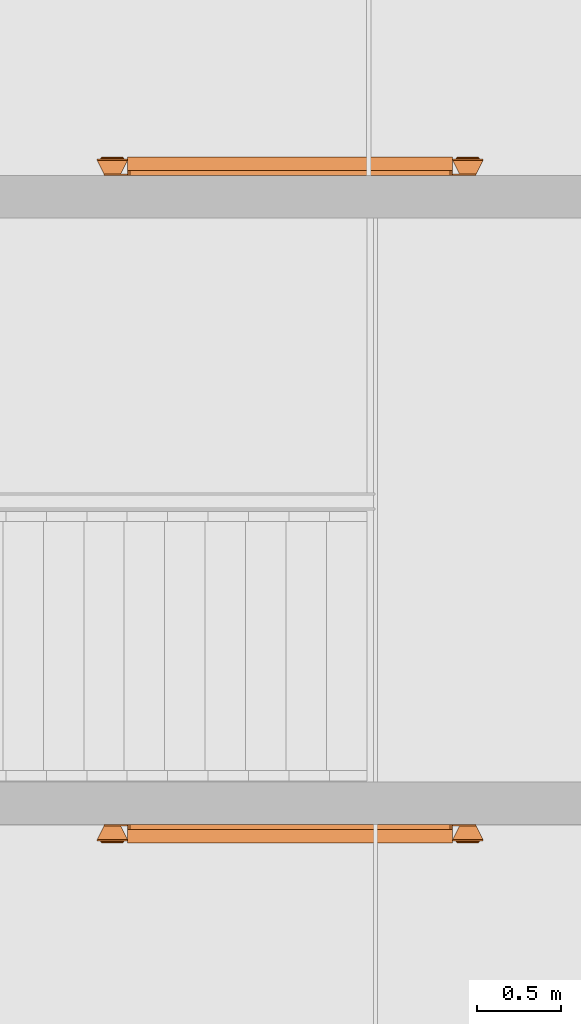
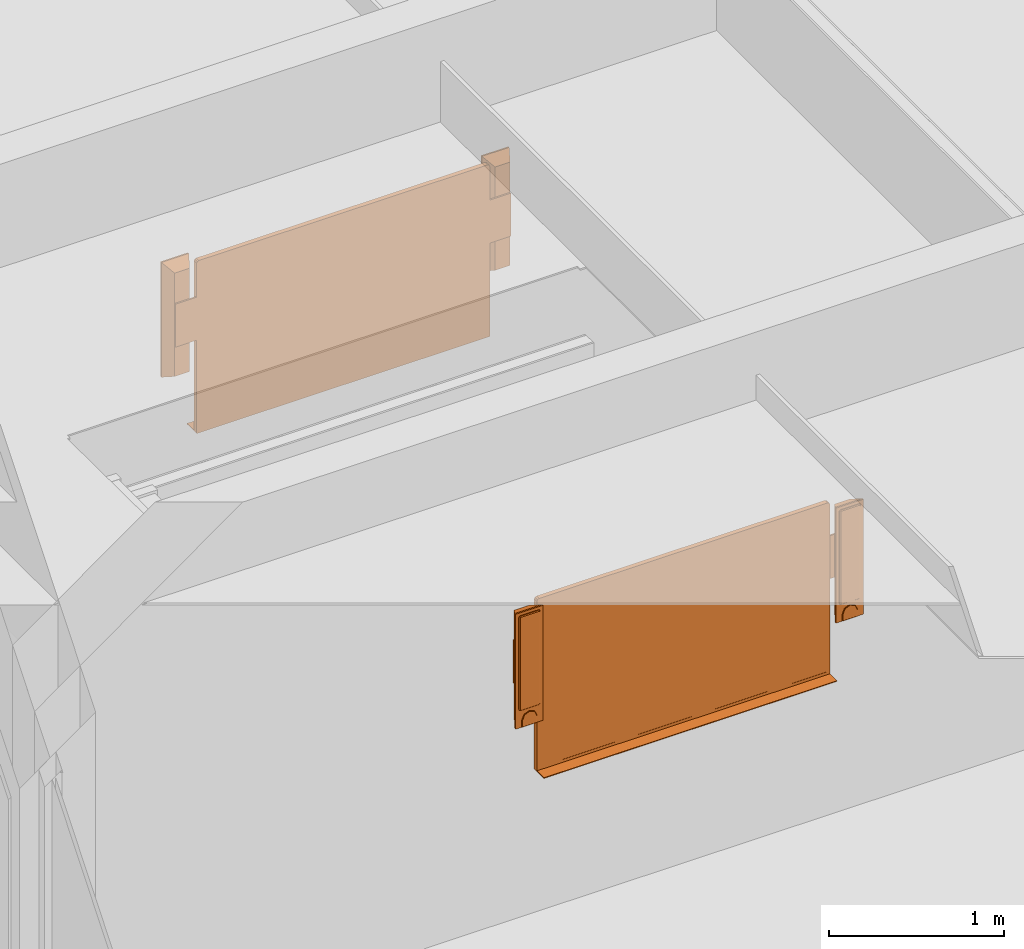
# One storey, part 79 of 167: 2 proxies.
"""IFC2X3 building model written with IfcOpenShell, lengths in millimetres."""

from ifc_helpers import new_model, entity, si_unit, converted_unit, derived_unit, money_unit, direction, frame, origin_with_axes, place, context, subcontext, project, spatial, faceted_brep, source, transform, mapped, type_object, type_shapes, element, save


model = new_model("IFC2X3")

# Units and contexts
model_context = context("Model", 3, precision=0.01, world=origin_with_axes(), true_north=direction((0.0, 1.0)))
plan_context = context("Plan", 3, precision=0.01, world=origin_with_axes(), true_north=direction((0.0, 1.0)))
body_context = subcontext(model_context, "Body", "Model", "MODEL_VIEW")
ifc_project = project(units=[si_unit("LENGTHUNIT", "METRE", prefix="MILLI"), si_unit("AREAUNIT", "SQUARE_METRE"), si_unit("VOLUMEUNIT", "CUBIC_METRE"), converted_unit("PLANEANGLEUNIT", "DEGREE", entity("IfcPlaneAngleMeasure", 0.0174532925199), si_unit("PLANEANGLEUNIT", "RADIAN"), dimensions=[0, 0, 0, 0, 0, 0, 0]), si_unit("SOLIDANGLEUNIT", "STERADIAN"), money_unit("EUR"), converted_unit("TIMEUNIT", "Year", entity("IfcTimeMeasure", 31556926.0), si_unit("TIMEUNIT", "SECOND"), dimensions=[0, 0, 1, 0, 0, 0, 0]), si_unit("MASSUNIT", "GRAM", prefix="KILO"), si_unit("THERMODYNAMICTEMPERATUREUNIT", "DEGREE_CELSIUS"), si_unit("LUMINOUSINTENSITYUNIT", "LUMEN"), si_unit("ENERGYUNIT", "JOULE", prefix="MEGA"), derived_unit("THERMALCONDUCTANCEUNIT", [(si_unit("POWERUNIT", "WATT"), 1), (si_unit("LENGTHUNIT", "METRE"), -1), (si_unit("THERMODYNAMICTEMPERATUREUNIT", "KELVIN"), -1)]), derived_unit("SPECIFICHEATCAPACITYUNIT", [(si_unit("ENERGYUNIT", "JOULE"), 1), (si_unit("MASSUNIT", "GRAM", prefix="KILO"), -1), (si_unit("THERMODYNAMICTEMPERATUREUNIT", "KELVIN"), -1)]), derived_unit("MASSDENSITYUNIT", [(si_unit("MASSUNIT", "GRAM", prefix="KILO"), 1), (si_unit("VOLUMEUNIT", "CUBIC_METRE"), -1)])], contexts=[model_context, plan_context])

# Site, building, storey
site_placement = place(None, origin_with_axes())
site = spatial("IfcSite", under=ifc_project, at=site_placement, Name="Site", CompositionType="ELEMENT")
building_placement = place(site_placement, origin_with_axes())
building = spatial("IfcBuilding", under=site, at=building_placement, Name="Naam gebouw", CompositionType="ELEMENT")
storey_placement = place(building_placement, origin_with_axes())
storey = spatial("IfcBuildingStorey", under=building, at=storey_placement, Name="Begane grond", CompositionType="ELEMENT", Elevation=0.0)

# Proxies
building_element_proxy_type = type_object("IfcBuildingElementProxyType", Name="Digitaal bord 24", PredefinedType="NOTDEFINED")
shared_shape_1 = source(origin_with_axes(), body_context, "Body", "Brep", [
    faceted_brep([(0.0, 0.0, 1000.0), (1930.0, 0.0, 1000.0), (1930.0, -30.0, 1000.0), (0.0, -30.0, 1000.0), (0.0, 0.0, 2185.0), (4.3933982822, 0.0, 2195.60660172), (15.0, 0.0, 2200.0), (1915.0, 0.0, 2200.0), (1925.60660172, 0.0, 2195.60660172), (1930.0, 0.0, 2185.0), (20.0, 0.0, 1025.0), (1910.0, 0.0, 1025.0), (1910.0, 0.0, 2180.0), (20.0, 0.0, 2180.0), (1930.0, -30.0, 2185.0), (1925.60660172, -30.0, 2195.60660172), (1915.0, -30.0, 2200.0), (15.0, -30.0, 2200.0), (4.3933982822, -30.0, 2195.60660172), (0.0, -30.0, 2185.0), (20.0, -30.0, 1025.0), (20.0, -30.0, 2180.0), (1910.0, -30.0, 2180.0), (1910.0, -30.0, 1025.0)], [[[0, 1, 2, 3]], [[0, 4, 5, 6, 7, 8, 9, 1], [10, 11, 12, 13]], [[1, 9, 14, 2]], [[3, 2, 14, 15, 16, 17, 18, 19], [20, 21, 22, 23]], [[4, 0, 3, 19]], [[5, 4, 19, 18]], [[6, 5, 18, 17]], [[7, 6, 17, 16]], [[8, 7, 16, 15]], [[9, 8, 15, 14]], [[11, 10, 20, 23]], [[12, 11, 23, 22]], [[13, 12, 22, 21]], [[10, 13, 21, 20]]]),
    faceted_brep([(20.0, 0.0, 1025.0), (1910.0, 0.0, 1025.0), (1910.0, -29.0, 1025.0), (20.0, -29.0, 1025.0), (20.0, 0.0, 2180.0), (1910.0, 0.0, 2180.0), (1910.0, -29.0, 2180.0), (20.0, -29.0, 2180.0)], [[[0, 1, 2, 3]], [[0, 4, 5, 1]], [[1, 5, 6, 2]], [[3, 2, 6, 7]], [[4, 0, 3, 7]], [[5, 4, 7, 6]]]),
    faceted_brep([(1930.0, -110.0, 1000.0), (0.0, -110.0, 1000.0), (0.0, -30.0, 1000.0), (1930.0, -30.0, 1000.0), (1930.0, -110.0, 1005.0), (0.0, -110.0, 1005.0), (0.0, -30.0, 1005.0), (1930.0, -30.0, 1005.0)], [[[0, 1, 2, 3]], [[1, 0, 4, 5]], [[2, 1, 5, 6]], [[3, 2, 6, 7]], [[0, 3, 7, 4]], [[5, 4, 7, 6]]]),
    faceted_brep([(0.0, -10.0, 1650.0), (-140.0, -10.0, 1650.0), (-140.0, 0.0, 1650.0), (0.0, 0.0, 1650.0), (0.0, -10.0, 1950.0), (-140.0, -10.0, 1950.0), (-140.0, 0.0, 1950.0), (0.0, 0.0, 1950.0)], [[[0, 1, 2, 3]], [[1, 0, 4, 5]], [[2, 1, 5, 6]], [[3, 2, 6, 7]], [[0, 3, 7, 4]], [[5, 4, 7, 6]]]),
    faceted_brep([(0.0, -100.0, 2200.0), (-180.0, -100.0, 2200.0), (-180.0, -100.0, 1400.0), (0.0, -100.0, 1400.0), (2.43782993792e-07, -90.0, 2200.00000039), (-180.00000039, -90.0, 2200.00000039), (-180.00000039, -90.0, 1399.99999964), (2.43782993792e-07, -90.0, 1399.99999964), (-39.9999997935, -9.99999992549, 2160.00000035), (-140.000000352, -9.99999992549, 2160.00000035), (-140.000000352, -9.99999992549, 1439.99999968), (-39.9999997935, -9.99999992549, 1439.99999968)], [[[0, 1, 2, 3]], [[1, 0, 4, 5]], [[2, 1, 5, 6]], [[3, 2, 6, 7]], [[0, 3, 7, 4]], [[5, 4, 8, 9]], [[6, 5, 9, 10]], [[7, 6, 10, 11]], [[4, 7, 11, 8]], [[10, 9, 8, 11]]]),
    faceted_brep([(-157.071067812, -100.0, 1522.92893219), (-160.0, -100.0, 1530.0), (-160.0, -100.0, 2170.0), (-157.071067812, -100.0, 2177.07106781), (-150.0, -100.0, 2180.0), (-30.0, -100.0, 2180.0), (-22.9289321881, -100.0, 2177.07106781), (-20.0, -100.0, 2170.0), (-20.0, -100.0, 1530.0), (-22.9289321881, -100.0, 1522.92893219), (-30.0, -100.0, 1520.0), (-150.0, -100.0, 1520.0), (-156.488467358, -103.826834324, 1523.51153264), (-159.238795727, -103.826834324, 1530.15141333), (-159.238795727, -103.826834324, 2169.84858696), (-156.488467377, -103.826834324, 2176.48846672), (-149.848586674, -103.826834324, 2179.2387951), (-30.1514125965, -103.826834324, 2179.2387951), (-23.5115328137, -103.826834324, 2176.48846674), (-20.761204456, -103.826834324, 2169.84858696), (-20.761204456, -103.826834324, 1530.15141333), (-23.5115328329, -103.826834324, 1523.51153262), (-30.1514125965, -103.826834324, 1520.76120427), (-149.848586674, -103.826834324, 1520.76120427), (-152.346331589, -109.238795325, 1527.65366841), (-153.826834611, -109.238795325, 1531.22791923), (-153.826834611, -109.238795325, 2168.77208092), (-152.346331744, -109.238795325, 2172.34633089), (-148.772080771, -109.238795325, 2173.82683398), (-31.2279186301, -109.238795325, 2173.82683398), (-27.6536685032, -109.238795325, 2172.34633105), (-26.1731655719, -109.238795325, 2168.77208092), (-26.1731655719, -109.238795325, 1531.22791923), (-27.6536686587, -109.238795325, 1527.65366826), (-31.2279186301, -109.238795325, 1526.17316539), (-148.772080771, -109.238795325, 1526.17316539), (-149.41740042, -109.999999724, 1530.58259958), (-150.000001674, -109.999999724, 1531.98912356), (-150.000001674, -109.999999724, 2168.0108765), (-149.417400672, -109.999999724, 2169.41739969), (-148.010876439, -109.999999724, 2170.00000104), (-31.9891230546, -109.999999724, 2170.00000104), (-30.5825996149, -109.999999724, 2169.41739994), (-29.9999985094, -109.999999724, 2168.0108765), (-29.9999985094, -109.999999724, 1531.98912356), (-30.5825998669, -109.999999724, 1530.58259933), (-31.9891230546, -109.999999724, 1529.99999833), (-148.010876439, -109.999999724, 1529.99999833)], [[[0, 1, 2, 3, 4, 5, 6, 7, 8, 9, 10, 11]], [[1, 0, 12, 13]], [[2, 1, 13, 14]], [[3, 2, 14, 15]], [[4, 3, 15, 16]], [[5, 4, 16, 17]], [[6, 5, 17, 18]], [[7, 6, 18, 19]], [[8, 7, 19, 20]], [[9, 8, 20, 21]], [[10, 9, 21, 22]], [[11, 10, 22, 23]], [[0, 11, 23, 12]], [[13, 12, 24, 25]], [[14, 13, 25, 26]], [[15, 14, 26, 27]], [[16, 15, 27, 28]], [[17, 16, 28, 29]], [[18, 17, 29, 30]], [[19, 18, 30, 31]], [[20, 19, 31, 32]], [[21, 20, 32, 33]], [[22, 21, 33, 34]], [[23, 22, 34, 35]], [[12, 23, 35, 24]], [[25, 24, 36, 37]], [[26, 25, 37, 38]], [[27, 26, 38, 39]], [[28, 27, 39, 40]], [[29, 28, 40, 41]], [[30, 29, 41, 42]], [[31, 30, 42, 43]], [[32, 31, 43, 44]], [[33, 32, 44, 45]], [[34, 33, 45, 46]], [[35, 34, 46, 47]], [[24, 35, 47, 36]], [[39, 38, 37, 36, 47, 46, 45, 44, 43, 42, 41, 40]]]),
    faceted_brep([(-40.0, -100.0, 1400.0), (-140.0, -100.0, 1400.0), (-140.0, -100.0, 1450.0), (-125.355339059, -100.0, 1485.35533906), (-90.0, -100.0, 1500.0), (-54.6446609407, -100.0, 1485.35533906), (-40.0, -100.0, 1450.0), (-40.380602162, -101.913417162, 1400.38060194), (-139.619398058, -101.913417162, 1400.38060194), (-139.619398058, -101.913417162, 1449.92429384), (-125.064038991, -101.913417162, 1485.06403877), (-89.9999996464, -101.913417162, 1499.58803917), (-54.9359612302, -101.913417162, 1485.06403877), (-40.380602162, -101.913417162, 1449.92429384), (-43.0865822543, -104.619397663, 1403.08658203), (-136.913417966, -104.619397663, 1403.08658203), (-136.913417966, -104.619397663, 1449.38604093), (-122.9929715, -104.619397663, 1482.99297126), (-89.99999966, -104.619397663, 1496.65910743), (-57.0070287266, -104.619397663, 1482.99297127), (-43.0865822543, -104.619397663, 1449.38604093), (-45.0000010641, -105.000000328, 1405.00000084), (-134.999999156, -105.000000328, 1405.00000084), (-134.999999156, -105.000000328, 1449.00543826), (-121.528504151, -105.000000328, 1481.52850389), (-89.9999996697, -105.000000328, 1494.58803784), (-58.4714960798, -105.000000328, 1481.52850392), (-45.0000010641, -105.000000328, 1449.00543826)], [[[0, 1, 2, 3, 4, 5, 6]], [[1, 0, 7, 8]], [[2, 1, 8, 9]], [[3, 2, 9, 10]], [[4, 3, 10, 11]], [[5, 4, 11, 12]], [[6, 5, 12, 13]], [[0, 6, 13, 7]], [[8, 7, 14, 15]], [[9, 8, 15, 16]], [[10, 9, 16, 17]], [[11, 10, 17, 18]], [[12, 11, 18, 19]], [[13, 12, 19, 20]], [[7, 13, 20, 14]], [[15, 14, 21, 22]], [[16, 15, 22, 23]], [[17, 16, 23, 24]], [[18, 17, 24, 25]], [[19, 18, 25, 26]], [[20, 19, 26, 27]], [[14, 20, 27, 21]], [[24, 23, 22, 21, 27, 26, 25]]]),
    faceted_brep([(1930.0, -10.0, 1650.0), (1930.0, 0.0, 1650.0), (2070.0, 0.0, 1650.0), (2070.0, -10.0, 1650.0), (1930.0, -10.0, 1950.0), (1930.0, 0.0, 1950.0), (2070.0, 0.0, 1950.0), (2070.0, -10.0, 1950.0)], [[[0, 1, 2, 3]], [[0, 4, 5, 1]], [[1, 5, 6, 2]], [[2, 6, 7, 3]], [[3, 7, 4, 0]], [[7, 6, 5, 4]]]),
    faceted_brep([(1930.0, -100.0, 2200.0), (1930.0, -100.0, 1400.0), (2110.0, -100.0, 1400.0), (2110.0, -100.0, 2200.0), (1929.99999976, -90.0, 2200.00000039), (1929.99999976, -90.0, 1399.99999964), (2110.00000039, -90.0, 1399.99999964), (2110.00000039, -90.0, 2200.00000039), (1969.99999979, -9.99999992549, 2160.00000035), (1969.99999979, -9.99999992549, 1439.99999968), (2070.00000035, -9.99999992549, 1439.99999968), (2070.00000035, -9.99999992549, 2160.00000035)], [[[0, 1, 2, 3]], [[0, 4, 5, 1]], [[1, 5, 6, 2]], [[2, 6, 7, 3]], [[3, 7, 4, 0]], [[4, 8, 9, 5]], [[5, 9, 10, 6]], [[6, 10, 11, 7]], [[7, 11, 8, 4]], [[10, 9, 8, 11]]]),
    faceted_brep([(2087.07106781, -100.0, 1522.92893219), (2080.0, -100.0, 1520.0), (1960.0, -100.0, 1520.0), (1952.92893219, -100.0, 1522.92893219), (1950.0, -100.0, 1530.0), (1950.0, -100.0, 2170.0), (1952.92893219, -100.0, 2177.07106781), (1960.0, -100.0, 2180.0), (2080.0, -100.0, 2180.0), (2087.07106781, -100.0, 2177.07106781), (2090.0, -100.0, 2170.0), (2090.0, -100.0, 1530.0), (2086.48846736, -103.826834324, 1523.51153264), (2079.84858667, -103.826834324, 1520.76120427), (1960.1514126, -103.826834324, 1520.76120427), (1953.51153283, -103.826834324, 1523.51153262), (1950.76120446, -103.826834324, 1530.15141333), (1950.76120446, -103.826834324, 2169.84858696), (1953.51153281, -103.826834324, 2176.48846674), (1960.1514126, -103.826834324, 2179.2387951), (2079.84858667, -103.826834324, 2179.2387951), (2086.48846738, -103.826834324, 2176.48846672), (2089.23879573, -103.826834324, 2169.84858696), (2089.23879573, -103.826834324, 1530.15141333), (2082.34633159, -109.238795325, 1527.65366841), (2078.77208077, -109.238795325, 1526.17316539), (1961.22791863, -109.238795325, 1526.17316539), (1957.65366866, -109.238795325, 1527.65366826), (1956.17316557, -109.238795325, 1531.22791923), (1956.17316557, -109.238795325, 2168.77208092), (1957.6536685, -109.238795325, 2172.34633105), (1961.22791863, -109.238795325, 2173.82683398), (2078.77208077, -109.238795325, 2173.82683398), (2082.34633174, -109.238795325, 2172.34633089), (2083.82683461, -109.238795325, 2168.77208092), (2083.82683461, -109.238795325, 1531.22791923), (2079.41740042, -109.999999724, 1530.58259958), (2078.01087644, -109.999999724, 1529.99999833), (1961.98912305, -109.999999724, 1529.99999833), (1960.58259987, -109.999999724, 1530.58259933), (1959.99999851, -109.999999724, 1531.98912356), (1959.99999851, -109.999999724, 2168.0108765), (1960.58259961, -109.999999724, 2169.41739994), (1961.98912305, -109.999999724, 2170.00000104), (2078.01087644, -109.999999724, 2170.00000104), (2079.41740067, -109.999999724, 2169.41739969), (2080.00000167, -109.999999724, 2168.0108765), (2080.00000167, -109.999999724, 1531.98912356)], [[[0, 1, 2, 3, 4, 5, 6, 7, 8, 9, 10, 11]], [[0, 12, 13, 1]], [[1, 13, 14, 2]], [[2, 14, 15, 3]], [[3, 15, 16, 4]], [[4, 16, 17, 5]], [[5, 17, 18, 6]], [[6, 18, 19, 7]], [[7, 19, 20, 8]], [[8, 20, 21, 9]], [[9, 21, 22, 10]], [[10, 22, 23, 11]], [[11, 23, 12, 0]], [[12, 24, 25, 13]], [[13, 25, 26, 14]], [[14, 26, 27, 15]], [[15, 27, 28, 16]], [[16, 28, 29, 17]], [[17, 29, 30, 18]], [[18, 30, 31, 19]], [[19, 31, 32, 20]], [[20, 32, 33, 21]], [[21, 33, 34, 22]], [[22, 34, 35, 23]], [[23, 35, 24, 12]], [[24, 36, 37, 25]], [[25, 37, 38, 26]], [[26, 38, 39, 27]], [[27, 39, 40, 28]], [[28, 40, 41, 29]], [[29, 41, 42, 30]], [[30, 42, 43, 31]], [[31, 43, 44, 32]], [[32, 44, 45, 33]], [[33, 45, 46, 34]], [[34, 46, 47, 35]], [[35, 47, 36, 24]], [[45, 44, 43, 42, 41, 40, 39, 38, 37, 36, 47, 46]]]),
    faceted_brep([(1970.0, -100.0, 1400.0), (1970.0, -100.0, 1450.0), (1984.64466094, -100.0, 1485.35533906), (2020.0, -100.0, 1500.0), (2055.35533906, -100.0, 1485.35533906), (2070.0, -100.0, 1450.0), (2070.0, -100.0, 1400.0), (1970.38060216, -101.913417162, 1400.38060194), (1970.38060216, -101.913417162, 1449.92429384), (1984.93596123, -101.913417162, 1485.06403877), (2019.99999965, -101.913417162, 1499.58803917), (2055.06403899, -101.913417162, 1485.06403877), (2069.61939806, -101.913417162, 1449.92429384), (2069.61939806, -101.913417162, 1400.38060194), (1973.08658225, -104.619397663, 1403.08658203), (1973.08658225, -104.619397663, 1449.38604093), (1987.00702873, -104.619397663, 1482.99297127), (2019.99999966, -104.619397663, 1496.65910743), (2052.9929715, -104.619397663, 1482.99297126), (2066.91341797, -104.619397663, 1449.38604093), (2066.91341797, -104.619397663, 1403.08658203), (1975.00000106, -105.000000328, 1405.00000084), (1975.00000106, -105.000000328, 1449.00543826), (1988.47149608, -105.000000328, 1481.52850392), (2019.99999967, -105.000000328, 1494.58803784), (2051.52850415, -105.000000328, 1481.52850389), (2064.99999916, -105.000000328, 1449.00543826), (2064.99999916, -105.000000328, 1405.00000084)], [[[0, 1, 2, 3, 4, 5, 6]], [[0, 7, 8, 1]], [[1, 8, 9, 2]], [[2, 9, 10, 3]], [[3, 10, 11, 4]], [[4, 11, 12, 5]], [[5, 12, 13, 6]], [[6, 13, 7, 0]], [[7, 14, 15, 8]], [[8, 15, 16, 9]], [[9, 16, 17, 10]], [[10, 17, 18, 11]], [[11, 18, 19, 12]], [[12, 19, 20, 13]], [[13, 20, 14, 7]], [[14, 21, 22, 15]], [[15, 22, 23, 16]], [[16, 23, 24, 17]], [[17, 24, 25, 18]], [[18, 25, 26, 19]], [[19, 26, 27, 20]], [[20, 27, 21, 14]], [[25, 24, 23, 22, 21, 27, 26]]]),
])
proxy_1_placement = place(storey_placement, frame((5090.01405593, 7075.0, 0.0), z_axis=(0.0, 0.0, 1.0), x_axis=(1.0, 0.0, 0.0)))
element("IfcBuildingElementProxy", 1, at=proxy_1_placement, inside=storey, type_object=building_element_proxy_type, Name="__object-x", context=body_context, shape_type="MappedRepresentation", body=[
    mapped(shared_shape_1, transform((0.0, 0.0, 0.0))),
])
shared_shape_2 = source(origin_with_axes(), body_context, "Body", "Brep", [
    faceted_brep([(0.0, 0.0, 1000.0), (0.0, -30.0, 1000.0), (-1930.0, -30.0, 1000.0), (-1930.0, 0.0, 1000.0), (0.0, 0.0, 2185.0), (0.0, -30.0, 2185.0), (-4.3933982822, -30.0, 2195.60660172), (-15.0, -30.0, 2200.0), (-1915.0, -30.0, 2200.0), (-1925.60660172, -30.0, 2195.60660172), (-1930.0, -30.0, 2185.0), (-20.0, -30.0, 1025.0), (-1910.0, -30.0, 1025.0), (-1910.0, -30.0, 2180.0), (-20.0, -30.0, 2180.0), (-1930.0, 0.0, 2185.0), (-1925.60660172, 0.0, 2195.60660172), (-1915.0, 0.0, 2200.0), (-15.0, 0.0, 2200.0), (-4.3933982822, 0.0, 2195.60660172), (-20.0, 0.0, 1025.0), (-20.0, 0.0, 2180.0), (-1910.0, 0.0, 2180.0), (-1910.0, 0.0, 1025.0)], [[[0, 1, 2, 3]], [[4, 5, 1, 0]], [[1, 5, 6, 7, 8, 9, 10, 2], [11, 12, 13, 14]], [[3, 2, 10, 15]], [[0, 3, 15, 16, 17, 18, 19, 4], [20, 21, 22, 23]], [[19, 6, 5, 4]], [[18, 7, 6, 19]], [[17, 8, 7, 18]], [[16, 9, 8, 17]], [[15, 10, 9, 16]], [[23, 12, 11, 20]], [[22, 13, 12, 23]], [[21, 14, 13, 22]], [[20, 11, 14, 21]]]),
    faceted_brep([(-20.0, 0.0, 1025.0), (-20.0, -29.0, 1025.0), (-1910.0, -29.0, 1025.0), (-1910.0, 0.0, 1025.0), (-20.0, 0.0, 2180.0), (-20.0, -29.0, 2180.0), (-1910.0, -29.0, 2180.0), (-1910.0, 0.0, 2180.0)], [[[0, 1, 2, 3]], [[4, 5, 1, 0]], [[1, 5, 6, 2]], [[3, 2, 6, 7]], [[0, 3, 7, 4]], [[7, 6, 5, 4]]]),
    faceted_brep([(-1930.0, -110.0, 1000.0), (-1930.0, -30.0, 1000.0), (0.0, -30.0, 1000.0), (0.0, -110.0, 1000.0), (-1930.0, -110.0, 1005.0), (-1930.0, -30.0, 1005.0), (0.0, -30.0, 1005.0), (0.0, -110.0, 1005.0)], [[[0, 1, 2, 3]], [[0, 4, 5, 1]], [[1, 5, 6, 2]], [[2, 6, 7, 3]], [[3, 7, 4, 0]], [[7, 6, 5, 4]]]),
    faceted_brep([(0.0, -10.0, 1650.0), (0.0, 0.0, 1650.0), (140.0, 0.0, 1650.0), (140.0, -10.0, 1650.0), (0.0, -10.0, 1950.0), (0.0, 0.0, 1950.0), (140.0, 0.0, 1950.0), (140.0, -10.0, 1950.0)], [[[0, 1, 2, 3]], [[0, 4, 5, 1]], [[1, 5, 6, 2]], [[2, 6, 7, 3]], [[3, 7, 4, 0]], [[7, 6, 5, 4]]]),
    faceted_brep([(0.0, -100.0, 2200.0), (0.0, -100.0, 1400.0), (180.0, -100.0, 1400.0), (180.0, -100.0, 2200.0), (-2.43782993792e-07, -90.0, 2200.00000039), (-2.43782993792e-07, -90.0, 1399.99999964), (180.00000039, -90.0, 1399.99999964), (180.00000039, -90.0, 2200.00000039), (39.9999997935, -9.99999992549, 2160.00000035), (39.9999997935, -9.99999992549, 1439.99999968), (140.000000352, -9.99999992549, 1439.99999968), (140.000000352, -9.99999992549, 2160.00000035)], [[[0, 1, 2, 3]], [[0, 4, 5, 1]], [[1, 5, 6, 2]], [[2, 6, 7, 3]], [[3, 7, 4, 0]], [[4, 8, 9, 5]], [[5, 9, 10, 6]], [[6, 10, 11, 7]], [[7, 11, 8, 4]], [[10, 9, 8, 11]]]),
    faceted_brep([(157.071067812, -100.0, 1522.92893219), (150.0, -100.0, 1520.0), (30.0, -100.0, 1520.0), (22.9289321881, -100.0, 1522.92893219), (20.0, -100.0, 1530.0), (20.0, -100.0, 2170.0), (22.9289321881, -100.0, 2177.07106781), (30.0, -100.0, 2180.0), (150.0, -100.0, 2180.0), (157.071067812, -100.0, 2177.07106781), (160.0, -100.0, 2170.0), (160.0, -100.0, 1530.0), (156.488467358, -103.826834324, 1523.51153264), (149.848586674, -103.826834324, 1520.76120427), (30.1514125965, -103.826834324, 1520.76120427), (23.5115328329, -103.826834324, 1523.51153262), (20.761204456, -103.826834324, 1530.15141333), (20.761204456, -103.826834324, 2169.84858696), (23.5115328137, -103.826834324, 2176.48846674), (30.1514125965, -103.826834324, 2179.2387951), (149.848586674, -103.826834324, 2179.2387951), (156.488467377, -103.826834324, 2176.48846672), (159.238795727, -103.826834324, 2169.84858696), (159.238795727, -103.826834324, 1530.15141333), (152.346331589, -109.238795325, 1527.65366841), (148.772080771, -109.238795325, 1526.17316539), (31.2279186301, -109.238795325, 1526.17316539), (27.6536686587, -109.238795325, 1527.65366826), (26.1731655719, -109.238795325, 1531.22791923), (26.1731655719, -109.238795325, 2168.77208092), (27.6536685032, -109.238795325, 2172.34633105), (31.2279186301, -109.238795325, 2173.82683398), (148.772080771, -109.238795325, 2173.82683398), (152.346331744, -109.238795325, 2172.34633089), (153.826834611, -109.238795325, 2168.77208092), (153.826834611, -109.238795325, 1531.22791923), (149.41740042, -109.999999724, 1530.58259958), (148.010876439, -109.999999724, 1529.99999833), (31.9891230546, -109.999999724, 1529.99999833), (30.5825998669, -109.999999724, 1530.58259933), (29.9999985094, -109.999999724, 1531.98912356), (29.9999985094, -109.999999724, 2168.0108765), (30.5825996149, -109.999999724, 2169.41739994), (31.9891230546, -109.999999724, 2170.00000104), (148.010876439, -109.999999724, 2170.00000104), (149.417400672, -109.999999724, 2169.41739969), (150.000001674, -109.999999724, 2168.0108765), (150.000001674, -109.999999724, 1531.98912356)], [[[0, 1, 2, 3, 4, 5, 6, 7, 8, 9, 10, 11]], [[0, 12, 13, 1]], [[1, 13, 14, 2]], [[2, 14, 15, 3]], [[3, 15, 16, 4]], [[4, 16, 17, 5]], [[5, 17, 18, 6]], [[6, 18, 19, 7]], [[7, 19, 20, 8]], [[8, 20, 21, 9]], [[9, 21, 22, 10]], [[10, 22, 23, 11]], [[11, 23, 12, 0]], [[12, 24, 25, 13]], [[13, 25, 26, 14]], [[14, 26, 27, 15]], [[15, 27, 28, 16]], [[16, 28, 29, 17]], [[17, 29, 30, 18]], [[18, 30, 31, 19]], [[19, 31, 32, 20]], [[20, 32, 33, 21]], [[21, 33, 34, 22]], [[22, 34, 35, 23]], [[23, 35, 24, 12]], [[24, 36, 37, 25]], [[25, 37, 38, 26]], [[26, 38, 39, 27]], [[27, 39, 40, 28]], [[28, 40, 41, 29]], [[29, 41, 42, 30]], [[30, 42, 43, 31]], [[31, 43, 44, 32]], [[32, 44, 45, 33]], [[33, 45, 46, 34]], [[34, 46, 47, 35]], [[35, 47, 36, 24]], [[45, 44, 43, 42, 41, 40, 39, 38, 37, 36, 47, 46]]]),
    faceted_brep([(40.0, -100.0, 1400.0), (40.0, -100.0, 1450.0), (54.6446609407, -100.0, 1485.35533906), (90.0, -100.0, 1500.0), (125.355339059, -100.0, 1485.35533906), (140.0, -100.0, 1450.0), (140.0, -100.0, 1400.0), (40.380602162, -101.913417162, 1400.38060194), (40.380602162, -101.913417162, 1449.92429384), (54.9359612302, -101.913417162, 1485.06403877), (89.9999996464, -101.913417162, 1499.58803917), (125.064038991, -101.913417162, 1485.06403877), (139.619398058, -101.913417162, 1449.92429384), (139.619398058, -101.913417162, 1400.38060194), (43.0865822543, -104.619397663, 1403.08658203), (43.0865822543, -104.619397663, 1449.38604093), (57.0070287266, -104.619397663, 1482.99297127), (89.99999966, -104.619397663, 1496.65910743), (122.9929715, -104.619397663, 1482.99297126), (136.913417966, -104.619397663, 1449.38604093), (136.913417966, -104.619397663, 1403.08658203), (45.0000010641, -105.000000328, 1405.00000084), (45.0000010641, -105.000000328, 1449.00543826), (58.4714960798, -105.000000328, 1481.52850392), (89.9999996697, -105.000000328, 1494.58803784), (121.528504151, -105.000000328, 1481.52850389), (134.999999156, -105.000000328, 1449.00543826), (134.999999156, -105.000000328, 1405.00000084)], [[[0, 1, 2, 3, 4, 5, 6]], [[0, 7, 8, 1]], [[1, 8, 9, 2]], [[2, 9, 10, 3]], [[3, 10, 11, 4]], [[4, 11, 12, 5]], [[5, 12, 13, 6]], [[6, 13, 7, 0]], [[7, 14, 15, 8]], [[8, 15, 16, 9]], [[9, 16, 17, 10]], [[10, 17, 18, 11]], [[11, 18, 19, 12]], [[12, 19, 20, 13]], [[13, 20, 14, 7]], [[14, 21, 22, 15]], [[15, 22, 23, 16]], [[16, 23, 24, 17]], [[17, 24, 25, 18]], [[18, 25, 26, 19]], [[19, 26, 27, 20]], [[20, 27, 21, 14]], [[25, 24, 23, 22, 21, 27, 26]]]),
    faceted_brep([(-1930.0, -10.0, 1650.0), (-2070.0, -10.0, 1650.0), (-2070.0, 0.0, 1650.0), (-1930.0, 0.0, 1650.0), (-1930.0, -10.0, 1950.0), (-2070.0, -10.0, 1950.0), (-2070.0, 0.0, 1950.0), (-1930.0, 0.0, 1950.0)], [[[0, 1, 2, 3]], [[1, 0, 4, 5]], [[2, 1, 5, 6]], [[3, 2, 6, 7]], [[0, 3, 7, 4]], [[5, 4, 7, 6]]]),
    faceted_brep([(-1930.0, -100.0, 2200.0), (-2110.0, -100.0, 2200.0), (-2110.0, -100.0, 1400.0), (-1930.0, -100.0, 1400.0), (-1929.99999976, -90.0, 2200.00000039), (-2110.00000039, -90.0, 2200.00000039), (-2110.00000039, -90.0, 1399.99999964), (-1929.99999976, -90.0, 1399.99999964), (-1969.99999979, -9.99999992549, 2160.00000035), (-2070.00000035, -9.99999992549, 2160.00000035), (-2070.00000035, -9.99999992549, 1439.99999968), (-1969.99999979, -9.99999992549, 1439.99999968)], [[[0, 1, 2, 3]], [[1, 0, 4, 5]], [[2, 1, 5, 6]], [[3, 2, 6, 7]], [[0, 3, 7, 4]], [[5, 4, 8, 9]], [[6, 5, 9, 10]], [[7, 6, 10, 11]], [[4, 7, 11, 8]], [[10, 9, 8, 11]]]),
    faceted_brep([(-2087.07106781, -100.0, 1522.92893219), (-2090.0, -100.0, 1530.0), (-2090.0, -100.0, 2170.0), (-2087.07106781, -100.0, 2177.07106781), (-2080.0, -100.0, 2180.0), (-1960.0, -100.0, 2180.0), (-1952.92893219, -100.0, 2177.07106781), (-1950.0, -100.0, 2170.0), (-1950.0, -100.0, 1530.0), (-1952.92893219, -100.0, 1522.92893219), (-1960.0, -100.0, 1520.0), (-2080.0, -100.0, 1520.0), (-2086.48846736, -103.826834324, 1523.51153264), (-2089.23879573, -103.826834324, 1530.15141333), (-2089.23879573, -103.826834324, 2169.84858696), (-2086.48846738, -103.826834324, 2176.48846672), (-2079.84858667, -103.826834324, 2179.2387951), (-1960.1514126, -103.826834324, 2179.2387951), (-1953.51153281, -103.826834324, 2176.48846674), (-1950.76120446, -103.826834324, 2169.84858696), (-1950.76120446, -103.826834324, 1530.15141333), (-1953.51153283, -103.826834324, 1523.51153262), (-1960.1514126, -103.826834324, 1520.76120427), (-2079.84858667, -103.826834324, 1520.76120427), (-2082.34633159, -109.238795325, 1527.65366841), (-2083.82683461, -109.238795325, 1531.22791923), (-2083.82683461, -109.238795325, 2168.77208092), (-2082.34633174, -109.238795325, 2172.34633089), (-2078.77208077, -109.238795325, 2173.82683398), (-1961.22791863, -109.238795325, 2173.82683398), (-1957.6536685, -109.238795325, 2172.34633105), (-1956.17316557, -109.238795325, 2168.77208092), (-1956.17316557, -109.238795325, 1531.22791923), (-1957.65366866, -109.238795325, 1527.65366826), (-1961.22791863, -109.238795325, 1526.17316539), (-2078.77208077, -109.238795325, 1526.17316539), (-2079.41740042, -109.999999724, 1530.58259958), (-2080.00000167, -109.999999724, 1531.98912356), (-2080.00000167, -109.999999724, 2168.0108765), (-2079.41740067, -109.999999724, 2169.41739969), (-2078.01087644, -109.999999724, 2170.00000104), (-1961.98912305, -109.999999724, 2170.00000104), (-1960.58259961, -109.999999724, 2169.41739994), (-1959.99999851, -109.999999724, 2168.0108765), (-1959.99999851, -109.999999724, 1531.98912356), (-1960.58259987, -109.999999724, 1530.58259933), (-1961.98912305, -109.999999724, 1529.99999833), (-2078.01087644, -109.999999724, 1529.99999833)], [[[0, 1, 2, 3, 4, 5, 6, 7, 8, 9, 10, 11]], [[1, 0, 12, 13]], [[2, 1, 13, 14]], [[3, 2, 14, 15]], [[4, 3, 15, 16]], [[5, 4, 16, 17]], [[6, 5, 17, 18]], [[7, 6, 18, 19]], [[8, 7, 19, 20]], [[9, 8, 20, 21]], [[10, 9, 21, 22]], [[11, 10, 22, 23]], [[0, 11, 23, 12]], [[13, 12, 24, 25]], [[14, 13, 25, 26]], [[15, 14, 26, 27]], [[16, 15, 27, 28]], [[17, 16, 28, 29]], [[18, 17, 29, 30]], [[19, 18, 30, 31]], [[20, 19, 31, 32]], [[21, 20, 32, 33]], [[22, 21, 33, 34]], [[23, 22, 34, 35]], [[12, 23, 35, 24]], [[25, 24, 36, 37]], [[26, 25, 37, 38]], [[27, 26, 38, 39]], [[28, 27, 39, 40]], [[29, 28, 40, 41]], [[30, 29, 41, 42]], [[31, 30, 42, 43]], [[32, 31, 43, 44]], [[33, 32, 44, 45]], [[34, 33, 45, 46]], [[35, 34, 46, 47]], [[24, 35, 47, 36]], [[39, 38, 37, 36, 47, 46, 45, 44, 43, 42, 41, 40]]]),
    faceted_brep([(-1970.0, -100.0, 1400.0), (-2070.0, -100.0, 1400.0), (-2070.0, -100.0, 1450.0), (-2055.35533906, -100.0, 1485.35533906), (-2020.0, -100.0, 1500.0), (-1984.64466094, -100.0, 1485.35533906), (-1970.0, -100.0, 1450.0), (-1970.38060216, -101.913417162, 1400.38060194), (-2069.61939806, -101.913417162, 1400.38060194), (-2069.61939806, -101.913417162, 1449.92429384), (-2055.06403899, -101.913417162, 1485.06403877), (-2019.99999965, -101.913417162, 1499.58803917), (-1984.93596123, -101.913417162, 1485.06403877), (-1970.38060216, -101.913417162, 1449.92429384), (-1973.08658225, -104.619397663, 1403.08658203), (-2066.91341797, -104.619397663, 1403.08658203), (-2066.91341797, -104.619397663, 1449.38604093), (-2052.9929715, -104.619397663, 1482.99297126), (-2019.99999966, -104.619397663, 1496.65910743), (-1987.00702873, -104.619397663, 1482.99297127), (-1973.08658225, -104.619397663, 1449.38604093), (-1975.00000106, -105.000000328, 1405.00000084), (-2064.99999916, -105.000000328, 1405.00000084), (-2064.99999916, -105.000000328, 1449.00543826), (-2051.52850415, -105.000000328, 1481.52850389), (-2019.99999967, -105.000000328, 1494.58803784), (-1988.47149608, -105.000000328, 1481.52850392), (-1975.00000106, -105.000000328, 1449.00543826)], [[[0, 1, 2, 3, 4, 5, 6]], [[1, 0, 7, 8]], [[2, 1, 8, 9]], [[3, 2, 9, 10]], [[4, 3, 10, 11]], [[5, 4, 11, 12]], [[6, 5, 12, 13]], [[0, 6, 13, 7]], [[8, 7, 14, 15]], [[9, 8, 15, 16]], [[10, 9, 16, 17]], [[11, 10, 17, 18]], [[12, 11, 18, 19]], [[13, 12, 19, 20]], [[7, 13, 20, 14]], [[15, 14, 21, 22]], [[16, 15, 22, 23]], [[17, 16, 23, 24]], [[18, 17, 24, 25]], [[19, 18, 25, 26]], [[20, 19, 26, 27]], [[14, 20, 27, 21]], [[24, 23, 22, 21, 27, 26, 25]]]),
])
type_shapes(building_element_proxy_type, [shared_shape_1, shared_shape_2])
proxy_2_placement = place(storey_placement, frame((5090.01405593, 10925.0, 0.0), z_axis=(0.0, 0.0, 1.0), x_axis=(-1.0, 0.0, 0.0)))
element("IfcBuildingElementProxy", 2, at=proxy_2_placement, inside=storey, type_object=building_element_proxy_type, Name="__object-x", context=body_context, shape_type="MappedRepresentation", body=[
    mapped(shared_shape_2, transform((0.0, 0.0, 0.0))),
])

save(model, "model.ifc")
